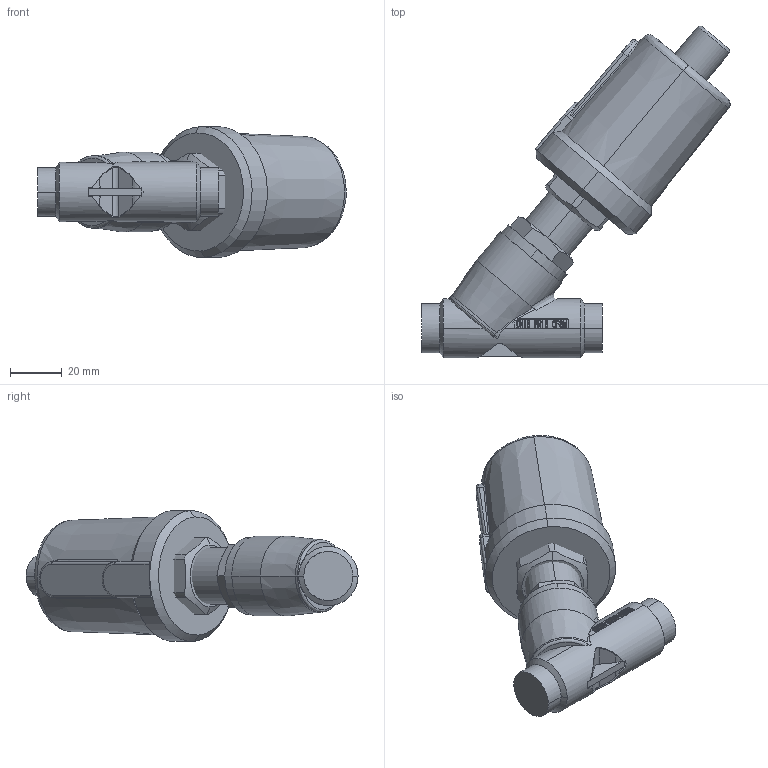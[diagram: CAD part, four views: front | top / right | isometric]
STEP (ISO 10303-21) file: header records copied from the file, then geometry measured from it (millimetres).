
FILE_DESCRIPTION (( 'STEP AP214' ), '1' );
FILE_NAME ('40缸DN15焊接DIN11850-2.STEP', '2022-12-05T23:45:09', ( '微软用户' ), ( '微软中国' ), 'SwSTEP 2.0', 'SolidWorks 2017', '' );
FILE_SCHEMA (( 'AUTOMOTIVE_DESIGN' ));
Length unit declared in the file: millimetre
Products named in the file (6): EJF501501H20概极; 錨璃5; 錨璃4; 錨璃6; 40詰DN15爾諉DIN11850-2; 錨璃3
Assembly tree (5 placements, depth 2):
  40詰DN15爾諉DIN11850-2
    錨璃3
    錨璃4
    錨璃5
    錨璃6
    EJF501501H20概极
Bounding box: 119.51 x 128.76 x 50.62 mm (x, y, z)
Volume: 180515.6 mm3; surface area: 38109.6 mm2
Topology: 5 solids, 5 shells, 493 faces, 1314 edges, 860 vertices
Faces by surface type: bspline 259, plane 115, cylinder 91, cone 28
Entity records: 32010 total; most frequent: CARTESIAN_POINT 21530, ORIENTED_EDGE 2628, EDGE_CURVE 1314, DIRECTION 1267, VERTEX_POINT 860, B_SPLINE_CURVE_WITH_KNOTS 650, EDGE_LOOP 524, LINE 495
